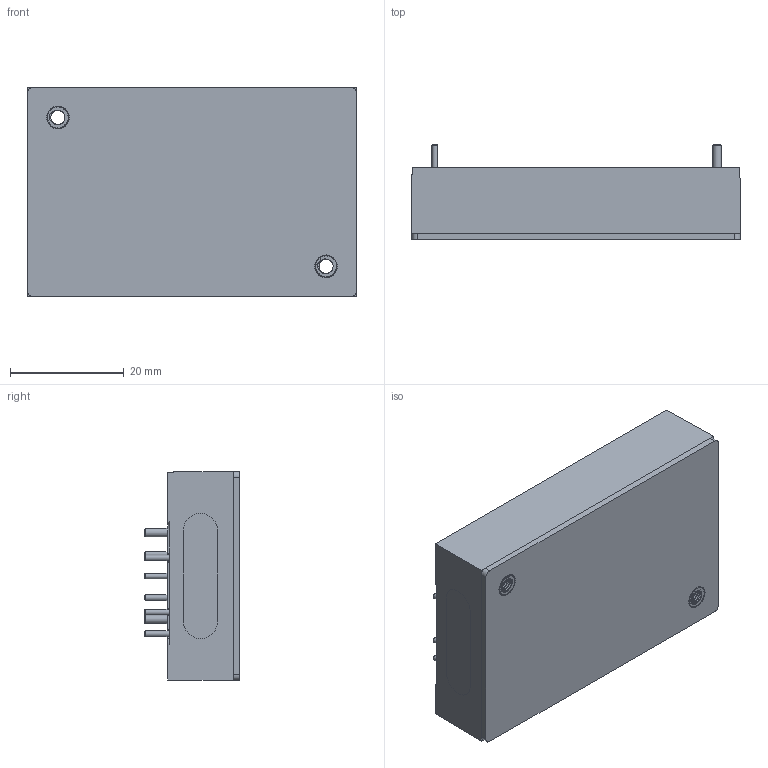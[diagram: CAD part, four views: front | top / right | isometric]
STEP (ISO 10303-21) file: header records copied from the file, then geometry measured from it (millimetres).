
FILE_DESCRIPTION (( 'STEP AP203' ), '1' );
FILE_NAME ('CQB150-300S 2024.11.14.STEP', '2024-11-14T06:42:00', ( '' ), ( '' ), 'SwSTEP 2.0', 'SolidWorks 2020', '' );
FILE_SCHEMA (( 'CONFIG_CONTROL_DESIGN' ));
Length unit declared in the file: millimetre
Products named in the file (1): CQB150-300S 2024.11.14
Bounding box: 57.91 x 16.82 x 36.81 mm (x, y, z)
Volume: 26725.1 mm3; surface area: 7215.6 mm2
Topology: 1 solids, 1 shells, 750 faces, 2040 edges, 1356 vertices
Faces by surface type: plane 483, bspline 127, cylinder 78, cone 62
Full cylindrical faces by diameter (mm): 1 x6, 1.15 x6, 1.5 x2, 1.65 x2, 4 x2, 4.3 x2, 4.7 x2
Entity records: 34881 total; most frequent: CARTESIAN_POINT 16854, ORIENTED_EDGE 3996, DIRECTION 3180, EDGE_CURVE 1998, VERTEX_POINT 1348, VECTOR 1308, LINE 1308, AXIS2_PLACEMENT_3D 936
